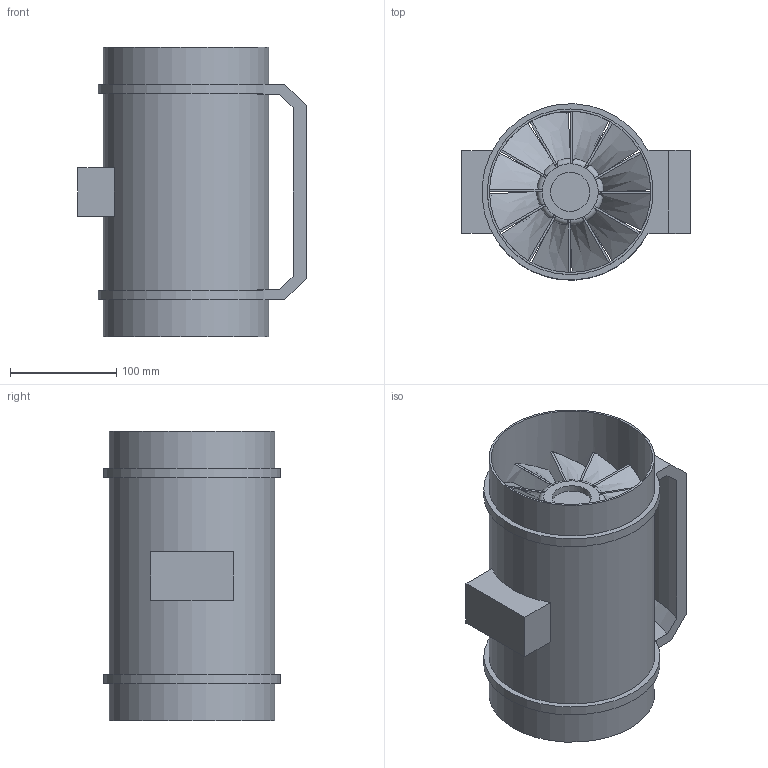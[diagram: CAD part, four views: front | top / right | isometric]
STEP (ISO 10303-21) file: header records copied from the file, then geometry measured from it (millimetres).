
FILE_DESCRIPTION(/* description */ (''),/* implementation_level */ '2;1');
FILE_NAME(/* name */ 'Z:\Output\MV_EC_160-06033-002.stp',/* time_stamp */ '2017-07-19T18:02:50+02:00',/* author */ ('engineering1'),/* organization */ (''),/* preprocessor_version */ 'ST-DEVELOPER v16.5',/* originating_system */ 'Autodesk Inventor 2017',/* authorisation */ '');
FILE_SCHEMA (('AUTOMOTIVE_DESIGN { 1 0 10303 214 3 1 1 }'));
Length unit declared in the file: millimetre
Products named in the file (1): MV-1USER
Bounding box: 215 x 165.75 x 273 mm (x, y, z)
Volume: 2375383.6 mm3; surface area: 478134.6 mm2
Topology: 1 solids, 1 shells, 285 faces, 725 edges, 470 vertices
Faces by surface type: plane 222, bspline 36, torus 13, cylinder 12, cone 2
Full cylindrical faces by diameter (mm): 36.857 x1, 50.857 x1, 62.857 x1, 116 x1, 152 x1, 156 x3
Entity records: 9567 total; most frequent: CARTESIAN_POINT 2537, ORIENTED_EDGE 1420, DIRECTION 1278, EDGE_CURVE 710, VERTEX_POINT 466, LINE 464, VECTOR 464, AXIS2_PLACEMENT_3D 407
